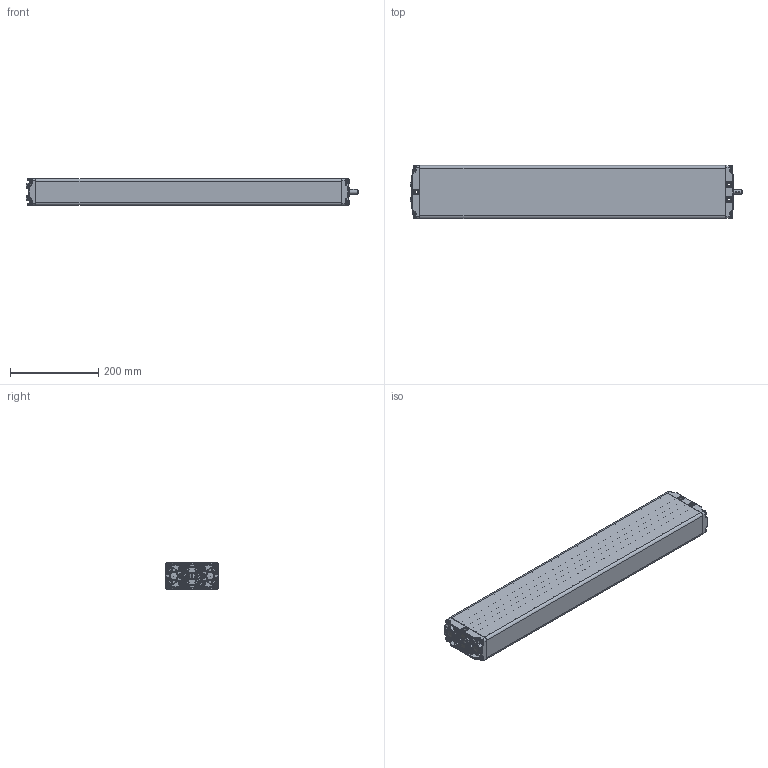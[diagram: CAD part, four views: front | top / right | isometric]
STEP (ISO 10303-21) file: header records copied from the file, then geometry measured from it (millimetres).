
FILE_DESCRIPTION(/* description */ ('Unknown'),/* implementation_level */ '2;1');
FILE_NAME(/* name */ '102.20025 Pumpe PB 3850 W',/* time_stamp */ '2016-10-21T13:45:12+02:00',/* author */ ('Unknown'),/* organization */ ('Unknown'),/* preprocessor_version */ 'ST-DEVELOPER v16.7',/* originating_system */ 'DEX',/* authorisation */ $);
FILE_SCHEMA (('AUTOMOTIVE_DESIGN {1 0 10303 214 3 1 1}'));
Products named in the file (15): 102.20025; 115.00035; 125.00045; 115.00008; 142.00021; 125.00021; 142.00013; 125.00145; 115.00140; 126.00006; 122.00040; 119.00045; 126.00005; 142.00057; 142.00110
Assembly tree (25 placements, depth 3):
  102.20025
    115.00035  x3
      125.00045
      115.00008
      142.00021
      125.00021
    142.00013  x8
    125.00045
    125.00145
    115.00140
      126.00006
      122.00040
    119.00045
    126.00005
    142.00057
    142.00110  x2
Bounding box: 751.47 x 120 x 60.3 mm (x, y, z)
Volume: 892268.1 mm3; surface area: 618289.2 mm2
Topology: 26 solids, 26 shells, 2486 faces, 5889 edges, 3383 vertices
Faces by surface type: bspline 704, plane 656, cylinder 557, cone 339, torus 171, sphere 59
Full cylindrical faces by diameter (mm): 3.5 x4, 4.1 x3, 4.2 x4, 5 x8, 6.917 x8, 8 x7, 9.8 x8, 10 x3, 10.4 x1, 14 x1, 14.4 x4, 15.8 x2, 17.3 x4, 17.9 x8, 18 x3, 19 x1, 21.2 x2
Entity records: 97701 total; most frequent: CARTESIAN_POINT 54084, ORIENTED_EDGE 8246, DIRECTION 6581, EDGE_CURVE 4123, AXIS2_PLACEMENT_3D 2648, VERTEX_POINT 2525, FACE_BOUND 1992, EDGE_LOOP 1991
